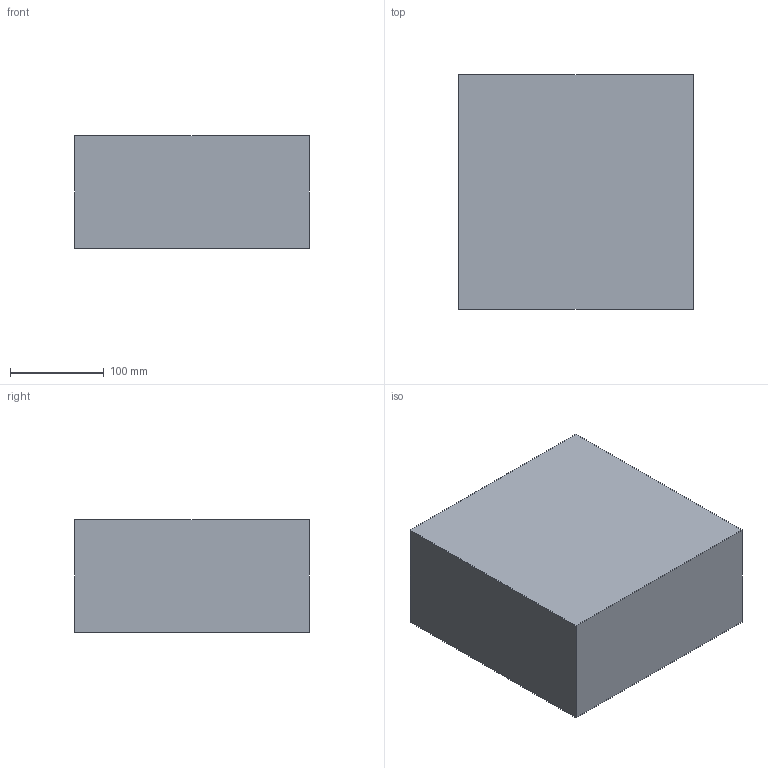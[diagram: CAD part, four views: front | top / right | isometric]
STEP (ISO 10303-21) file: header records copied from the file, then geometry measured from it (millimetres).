
FILE_DESCRIPTION(/* description */ (''),/* implementation_level */ '2;1');
FILE_NAME(/* name */ 'EG (-X) 140.stp',/* time_stamp */ '2024-09-26T16:55:05+02:00',/* author */ ('d.streicher'),/* organization */ (''),/* preprocessor_version */ 'ST-DEVELOPER v20',/* originating_system */ 'Autodesk Inventor 2025',/* authorisation */ '');
FILE_SCHEMA (('AUTOMOTIVE_DESIGN { 1 0 10303 214 3 1 1 }'));
Length unit declared in the file: millimetre
Products named in the file (1): EG (-X) 140
Bounding box: 250 x 250 x 120 mm (x, y, z)
Volume: 2080943.4 mm3; surface area: 421386.9 mm2
Topology: 1 solids, 1 shells, 16 faces, 36 edges, 24 vertices
Faces by surface type: plane 12, cylinder 4
Full cylindrical faces by diameter (mm): 4 x3, 128 x1
Entity records: 528 total; most frequent: DIRECTION 78, CARTESIAN_POINT 77, ORIENTED_EDGE 72, EDGE_CURVE 36, LINE 28, VECTOR 28, AXIS2_PLACEMENT_3D 25, EDGE_LOOP 24
